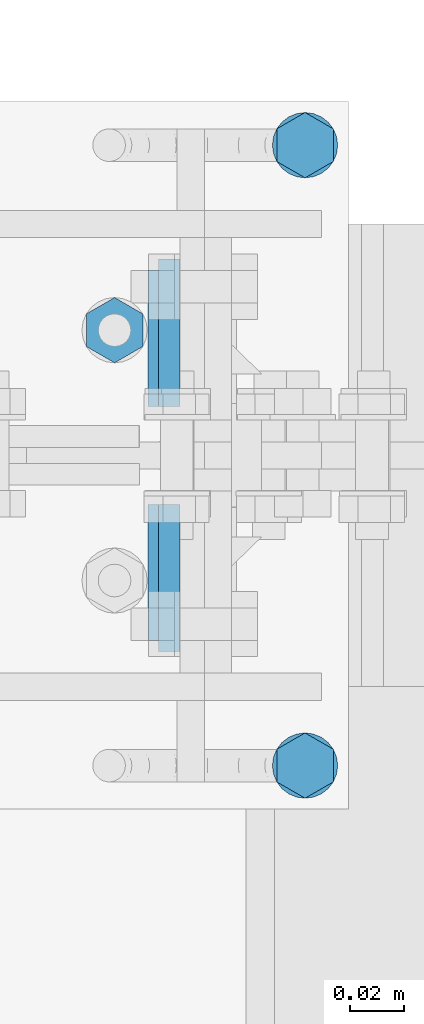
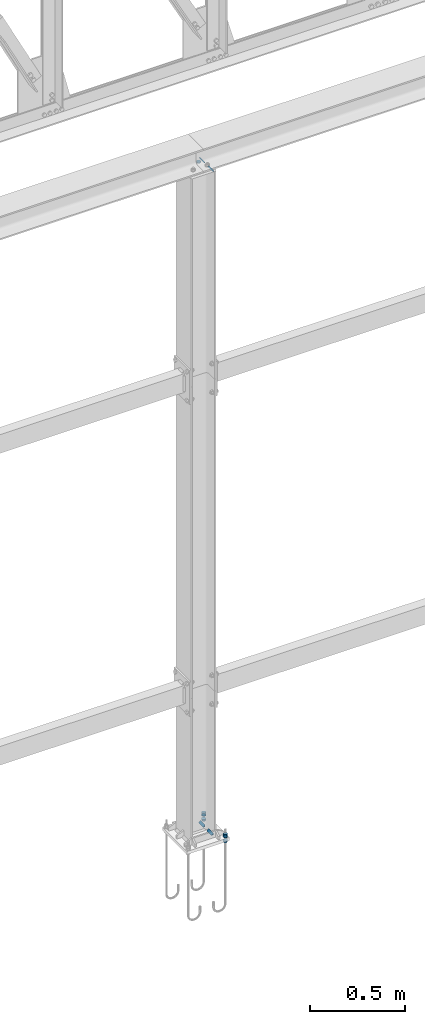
# One storey, part 202 of 251: 11 mechanical fasteners, 8 fasteners.
"""IFC4 building model written with IfcOpenShell, lengths in metres."""

from ifc_helpers import new_model, si_unit, frame, origin_with_axes, place, context, project, spatial, polyline, outline, extrude, type_object, element, save


model = new_model("IFC4")

# Units and contexts
model_context = context("Model", 3, precision=1e-05, world=origin_with_axes())
ifc_project = project(units=[si_unit("LENGTHUNIT", "METRE"), si_unit("AREAUNIT", "SQUARE_METRE"), si_unit("VOLUMEUNIT", "CUBIC_METRE"), si_unit("MASSUNIT", "GRAM", prefix="KILO"), si_unit("TIMEUNIT", "SECOND"), si_unit("PLANEANGLEUNIT", "RADIAN"), si_unit("SOLIDANGLEUNIT", "STERADIAN"), si_unit("THERMODYNAMICTEMPERATUREUNIT", "DEGREE_CELSIUS")], contexts=[model_context])

# Site, building, storey
placement_1 = place(None, origin_with_axes())
site = spatial("IfcSite", under=ifc_project, at=placement_1, Name="Italia", CompositionType="ELEMENT")
building = spatial("IfcBuilding", under=site, at=placement_1, Name="Deposito", CompositionType="ELEMENT")
storey = spatial("IfcBuildingStorey", under=building, at=placement_1, Name="Storey 0", CompositionType="ELEMENT", Elevation=0.0)

# Fasteners
fastener_type_1 = type_object("IfcFastenerType", Name="Collegamenti 0068_-006 0074_-007", PredefinedType="WELD")
placement_2 = place(placement_1, origin_with_axes())
fastener_1_placement = place(placement_2, origin_with_axes())
element("IfcFastener", 1, at=fastener_1_placement, inside=storey, type_object=fastener_type_1, Name="Collegamenti 0068_-006 0074_-007", context=model_context, shape_type="SweptSolid", body=[
    extrude(outline(polyline([(0.0, 0.0), (0.0118074, 0.0121734), (0.0118074, 0.0), (0.0, 0.0)])), frame((10.9702, 20.0681, 0.06995), z_axis=(0.0, -1.0, 0.0), x_axis=(1.0, 0.0, 0.0)), (0.0, 0.0, 1.0), 0.0501003),
])
fastener_type_2 = type_object("IfcFastenerType", Name="Collegamenti 0068_-006 0074_-007", PredefinedType="WELD")
fastener_2_placement = place(placement_2, origin_with_axes())
element("IfcFastener", 2, at=fastener_2_placement, inside=storey, type_object=fastener_type_2, Name="Collegamenti 0068_-006 0074_-007", context=model_context, shape_type="SweptSolid", body=[
    extrude(outline(polyline([(0.0, 0.0), (0.0118074, 0.0121734), (0.0118074, 0.0), (0.0, 0.0)])), frame((10.9702, 19.982, 0.06995), z_axis=(0.0, -1.0, 0.0), x_axis=(1.0, 0.0, 0.0)), (0.0, 0.0, 1.0), 0.0501003),
])
fastener_type_3 = type_object("IfcFastenerType", Name="Collegamenti 0068_-006 0074_-007", PredefinedType="WELD")
fastener_3_placement = place(placement_2, origin_with_axes())
element("IfcFastener", 3, at=fastener_3_placement, inside=storey, type_object=fastener_type_3, Name="Collegamenti 0068_-006 0074_-007", context=model_context, shape_type="SweptSolid", body=[
    extrude(outline(polyline([(0.0, 0.0), (0.0118074, 0.0121734), (0.0118074, 0.0), (0.0, 0.0)])), frame((10.9702, 20.0681, 0.06995), z_axis=(0.0, -1.0, 0.0), x_axis=(1.0, 0.0, 0.0)), (0.0, 0.0, 1.0), 0.0501003),
])
fastener_type_4 = type_object("IfcFastenerType", Name="Collegamenti 0068_-006 0074_-007", PredefinedType="WELD")
fastener_4_placement = place(placement_2, origin_with_axes())
element("IfcFastener", 4, at=fastener_4_placement, inside=storey, type_object=fastener_type_4, Name="Collegamenti 0068_-006 0074_-007", context=model_context, shape_type="SweptSolid", body=[
    extrude(outline(polyline([(0.0, 0.0), (0.0118074, 0.0121734), (0.0118074, 0.0), (0.0, 0.0)])), frame((10.9702, 19.982, 0.06995), z_axis=(0.0, -1.0, 0.0), x_axis=(1.0, 0.0, 0.0)), (0.0, 0.0, 1.0), 0.0501003),
])

# Mechanical fasteners
mechanical_fastener_type_1 = type_object("IfcMechanicalFastenerType", Name="Collegamenti 0068_-006 0074_-007", PredefinedType="BOLT")
mechanical_fastener_1_placement = place(placement_2, origin_with_axes())
element("IfcMechanicalFastener", 5, at=mechanical_fastener_1_placement, inside=storey, type_object=mechanical_fastener_type_1, Name="Collegamenti 0068_-006 0074_-007", NominalDiameter=0.0119992, context=model_context, shape_type="SweptSolid", body=[
    extrude(outline(polyline([(0.0, 0.0), (-0.012001, 0.0), (-0.0179996, 0.0103922), (-0.012001, 0.0207844), (0.0, 0.0207844), (0.00600052, 0.0103922), (0.0, 0.0)])), frame((11.0384, 19.892, 0.072), z_axis=(0.0, 0.0, 1.0), x_axis=(0.0, 1.0, 0.0)), (0.0, 0.0, 1.0), 0.0096),
])
mechanical_fastener_type_2 = type_object("IfcMechanicalFastenerType", Name="Collegamenti 0068_-006 0074_-007", PredefinedType="BOLT")
mechanical_fastener_2_placement = place(placement_2, origin_with_axes())
element("IfcMechanicalFastener", 6, at=mechanical_fastener_2_placement, inside=storey, type_object=mechanical_fastener_type_2, Name="Collegamenti 0068_-006 0074_-007", NominalDiameter=0.0119992, context=model_context, shape_type="SweptSolid", body=[
    extrude(outline(polyline([(0.0, 0.0), (-0.012001, 0.0), (-0.0179996, 0.0103922), (-0.012001, 0.0207844), (0.0, 0.0207844), (0.00600052, 0.0103922), (0.0, 0.0)])), frame((11.0384, 19.892, 0.0816), z_axis=(0.0, 0.0, 1.0), x_axis=(0.0, 1.0, 0.0)), (0.0, 0.0, 1.0), 0.0096),
])
mechanical_fastener_type_3 = type_object("IfcMechanicalFastenerType", Name="Collegamenti 0068_-006 0074_-007", PredefinedType="BOLT")
mechanical_fastener_3_placement = place(placement_2, origin_with_axes())
element("IfcMechanicalFastener", 7, at=mechanical_fastener_3_placement, inside=storey, type_object=mechanical_fastener_type_3, Name="Collegamenti 0068_-006 0074_-007", NominalDiameter=0.0119992, context=model_context, shape_type="SweptSolid", body=[
    extrude(outline(polyline([(0.0, 0.0), (-0.012001, 0.0), (-0.0179996, 0.0103922), (-0.012001, 0.0207844), (0.0, 0.0207844), (0.00600052, 0.0103922), (0.0, 0.0)])), frame((11.0384, 19.892, 0.0384), z_axis=(0.0, 0.0, 1.0), x_axis=(0.0, 1.0, 0.0)), (0.0, 0.0, 1.0), 0.0096),
])
mechanical_fastener_type_4 = type_object("IfcMechanicalFastenerType", Name="Collegamenti 0068_-006 0074_-007", PredefinedType="BOLT")
mechanical_fastener_4_placement = place(placement_2, origin_with_axes())
element("IfcMechanicalFastener", 8, at=mechanical_fastener_4_placement, inside=storey, type_object=mechanical_fastener_type_4, Name="Collegamenti 0068_-006 0074_-007", NominalDiameter=0.024, context=model_context, shape_type="SweptSolid", body=[
    extrude(outline(polyline([(0.0, 0.0), (-0.000408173, -0.00310612), (-0.00160599, -0.00599957), (-0.00351334, -0.00848484), (-0.00599861, -0.0103922), (-0.00889397, -0.011591), (-0.0119991, -0.0120001), (-0.0151043, -0.011591), (-0.0179996, -0.0103922), (-0.0204849, -0.00848484), (-0.0223923, -0.00599957), (-0.0235901, -0.00310612), (-0.0239983, 0.0), (-0.0235901, 0.00310612), (-0.0223923, 0.00599957), (-0.0204849, 0.00848484), (-0.0179996, 0.0103922), (-0.0151043, 0.011591), (-0.0119991, 0.0120001), (-0.00889397, 0.011591), (-0.00599861, 0.0103922), (-0.00351334, 0.00848484), (-0.00160599, 0.00599957), (-0.000408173, 0.00310612), (0.0, 0.0)])), frame((11.028, 19.898, 0.07), z_axis=(0.0, 0.0, 1.0), x_axis=(0.0, 1.0, 0.0)), (0.0, 0.0, 1.0), 0.002),
])
mechanical_fastener_type_5 = type_object("IfcMechanicalFastenerType", Name="Collegamenti 0068_-006 0074_-007", PredefinedType="BOLT")
mechanical_fastener_5_placement = place(placement_2, origin_with_axes())
element("IfcMechanicalFastener", 9, at=mechanical_fastener_5_placement, inside=storey, type_object=mechanical_fastener_type_5, Name="Collegamenti 0068_-006 0074_-007", NominalDiameter=0.024, context=model_context, shape_type="SweptSolid", body=[
    extrude(outline(polyline([(0.0, 0.0), (-0.000408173, -0.00310612), (-0.00160599, -0.00599957), (-0.00351334, -0.00848484), (-0.00599861, -0.0103922), (-0.00889397, -0.011591), (-0.0119991, -0.0120001), (-0.0151043, -0.011591), (-0.0179996, -0.0103922), (-0.0204849, -0.00848484), (-0.0223923, -0.00599957), (-0.0235901, -0.00310612), (-0.0239983, 0.0), (-0.0235901, 0.00310612), (-0.0223923, 0.00599957), (-0.0204849, 0.00848484), (-0.0179996, 0.0103922), (-0.0151043, 0.011591), (-0.0119991, 0.0120001), (-0.00889397, 0.011591), (-0.00599861, 0.0103922), (-0.00351334, 0.00848484), (-0.00160599, 0.00599957), (-0.000408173, 0.00310612), (0.0, 0.0)])), frame((11.028, 19.898, 0.048), z_axis=(0.0, 0.0, 1.0), x_axis=(0.0, 1.0, 0.0)), (0.0, 0.0, 1.0), 0.002),
])
mechanical_fastener_type_6 = type_object("IfcMechanicalFastenerType", Name="Collegamenti 0068_-006 0074_-007", PredefinedType="BOLT")
mechanical_fastener_6_placement = place(placement_2, origin_with_axes())
element("IfcMechanicalFastener", 10, at=mechanical_fastener_6_placement, inside=storey, type_object=mechanical_fastener_type_6, Name="Collegamenti 0068_-006 0074_-007", NominalDiameter=0.0119992, context=model_context, shape_type="SweptSolid", body=[
    extrude(outline(polyline([(0.0, 0.0), (-0.012001, 0.0), (-0.0180016, 0.0103922), (-0.012001, 0.0207844), (0.0, 0.0207844), (0.00599861, 0.0103922), (0.0, 0.0)])), frame((11.0384, 20.12, 0.072), z_axis=(0.0, 0.0, 1.0), x_axis=(0.0, 1.0, 0.0)), (0.0, 0.0, 1.0), 0.0096),
])
mechanical_fastener_type_7 = type_object("IfcMechanicalFastenerType", Name="Collegamenti 0068_-006 0074_-007", PredefinedType="BOLT")
mechanical_fastener_7_placement = place(placement_2, origin_with_axes())
element("IfcMechanicalFastener", 11, at=mechanical_fastener_7_placement, inside=storey, type_object=mechanical_fastener_type_7, Name="Collegamenti 0068_-006 0074_-007", NominalDiameter=0.0119992, context=model_context, shape_type="SweptSolid", body=[
    extrude(outline(polyline([(0.0, 0.0), (-0.012001, 0.0), (-0.0180016, 0.0103922), (-0.012001, 0.0207844), (0.0, 0.0207844), (0.00599861, 0.0103922), (0.0, 0.0)])), frame((11.0384, 20.12, 0.0816), z_axis=(0.0, 0.0, 1.0), x_axis=(0.0, 1.0, 0.0)), (0.0, 0.0, 1.0), 0.0096),
])
mechanical_fastener_type_8 = type_object("IfcMechanicalFastenerType", Name="Collegamenti 0068_-006 0074_-007", PredefinedType="BOLT")
mechanical_fastener_8_placement = place(placement_2, origin_with_axes())
element("IfcMechanicalFastener", 12, at=mechanical_fastener_8_placement, inside=storey, type_object=mechanical_fastener_type_8, Name="Collegamenti 0068_-006 0074_-007", NominalDiameter=0.0119992, context=model_context, shape_type="SweptSolid", body=[
    extrude(outline(polyline([(0.0, 0.0), (-0.012001, 0.0), (-0.0180016, 0.0103922), (-0.012001, 0.0207844), (0.0, 0.0207844), (0.00599861, 0.0103922), (0.0, 0.0)])), frame((11.0384, 20.12, 0.0384), z_axis=(0.0, 0.0, 1.0), x_axis=(0.0, 1.0, 0.0)), (0.0, 0.0, 1.0), 0.0096),
])
mechanical_fastener_type_9 = type_object("IfcMechanicalFastenerType", Name="Collegamenti 0068_-006 0074_-007", PredefinedType="BOLT")
mechanical_fastener_9_placement = place(placement_2, origin_with_axes())
element("IfcMechanicalFastener", 13, at=mechanical_fastener_9_placement, inside=storey, type_object=mechanical_fastener_type_9, Name="Collegamenti 0068_-006 0074_-007", NominalDiameter=0.024, context=model_context, shape_type="SweptSolid", body=[
    extrude(outline(polyline([(0.0, 0.0), (-0.000408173, -0.00310612), (-0.00160599, -0.00599957), (-0.00351334, -0.00848484), (-0.00599861, -0.0103922), (-0.00889397, -0.011591), (-0.0119991, -0.0120001), (-0.0151043, -0.011591), (-0.0179996, -0.0103922), (-0.0204849, -0.00848484), (-0.0223923, -0.00599957), (-0.0235901, -0.00310612), (-0.0239983, 0.0), (-0.0235901, 0.00310612), (-0.0223923, 0.00599957), (-0.0204849, 0.00848484), (-0.0179996, 0.0103922), (-0.0151043, 0.011591), (-0.0119991, 0.0120001), (-0.00889397, 0.011591), (-0.00599861, 0.0103922), (-0.00351334, 0.00848484), (-0.00160599, 0.00599957), (-0.000408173, 0.00310612), (0.0, 0.0)])), frame((11.028, 20.126, 0.07), z_axis=(0.0, 0.0, 1.0), x_axis=(0.0, 1.0, 0.0)), (0.0, 0.0, 1.0), 0.002),
])
mechanical_fastener_type_10 = type_object("IfcMechanicalFastenerType", Name="Collegamenti 0068_-006 0074_-007", PredefinedType="BOLT")
mechanical_fastener_10_placement = place(placement_2, origin_with_axes())
element("IfcMechanicalFastener", 14, at=mechanical_fastener_10_placement, inside=storey, type_object=mechanical_fastener_type_10, Name="Collegamenti 0068_-006 0074_-007", NominalDiameter=0.024, context=model_context, shape_type="SweptSolid", body=[
    extrude(outline(polyline([(0.0, 0.0), (-0.000408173, -0.00310612), (-0.00160599, -0.00599957), (-0.00351334, -0.00848484), (-0.00599861, -0.0103922), (-0.00889397, -0.011591), (-0.0119991, -0.0120001), (-0.0151043, -0.011591), (-0.0179996, -0.0103922), (-0.0204849, -0.00848484), (-0.0223923, -0.00599957), (-0.0235901, -0.00310612), (-0.0239983, 0.0), (-0.0235901, 0.00310612), (-0.0223923, 0.00599957), (-0.0204849, 0.00848484), (-0.0179996, 0.0103922), (-0.0151043, 0.011591), (-0.0119991, 0.0120001), (-0.00889397, 0.011591), (-0.00599861, 0.0103922), (-0.00351334, 0.00848484), (-0.00160599, 0.00599957), (-0.000408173, 0.00310612), (0.0, 0.0)])), frame((11.028, 20.126, 0.048), z_axis=(0.0, 0.0, 1.0), x_axis=(0.0, 1.0, 0.0)), (0.0, 0.0, 1.0), 0.002),
])

# Fasteners
fastener_type_5 = type_object("IfcFastenerType", Name="Collegamenti 7068_-014 7074_-015", PredefinedType="WELD")
fastener_5_placement = place(placement_2, origin_with_axes())
element("IfcFastener", 15, at=fastener_5_placement, inside=storey, type_object=fastener_type_5, Name="Collegamenti 7068_-014 7074_-015", context=model_context, shape_type="SweptSolid", body=[
    extrude(outline(polyline([(0.0, 0.0), (-0.00792789, -0.00817347), (-0.00792789, 0.0), (0.0, 0.0)])), frame((10.9741, 20.018, 4.33305), z_axis=(0.0, 1.0, 0.0), x_axis=(-1.0, 0.0, 0.0)), (0.0, 0.0, 1.0), 0.0541),
])
fastener_type_6 = type_object("IfcFastenerType", Name="Collegamenti 7068_-014 7074_-015", PredefinedType="WELD")
fastener_6_placement = place(placement_2, origin_with_axes())
element("IfcFastener", 16, at=fastener_6_placement, inside=storey, type_object=fastener_type_6, Name="Collegamenti 7068_-014 7074_-015", context=model_context, shape_type="SweptSolid", body=[
    extrude(outline(polyline([(0.0, 0.0), (-0.00792789, -0.00817347), (-0.00792789, 0.0), (0.0, 0.0)])), frame((10.9741, 19.9279, 4.33305), z_axis=(0.0, 1.0, 0.0), x_axis=(-1.0, 0.0, 0.0)), (0.0, 0.0, 1.0), 0.0541),
])
fastener_type_7 = type_object("IfcFastenerType", Name="Collegamenti 7068_-014 7074_-015", PredefinedType="WELD")
fastener_7_placement = place(placement_2, origin_with_axes())
element("IfcFastener", 17, at=fastener_7_placement, inside=storey, type_object=fastener_type_7, Name="Collegamenti 7068_-014 7074_-015", context=model_context, shape_type="SweptSolid", body=[
    extrude(outline(polyline([(0.0, 0.0), (-0.00792789, -0.00817347), (-0.00792789, 0.0), (0.0, 0.0)])), frame((10.9741, 20.018, 4.33305), z_axis=(0.0, 1.0, 0.0), x_axis=(-1.0, 0.0, 0.0)), (0.0, 0.0, 1.0), 0.0541),
])
fastener_type_8 = type_object("IfcFastenerType", Name="Collegamenti 7068_-014 7074_-015", PredefinedType="WELD")
fastener_8_placement = place(placement_2, origin_with_axes())
element("IfcFastener", 18, at=fastener_8_placement, inside=storey, type_object=fastener_type_8, Name="Collegamenti 7068_-014 7074_-015", context=model_context, shape_type="SweptSolid", body=[
    extrude(outline(polyline([(0.0, 0.0), (-0.00792789, -0.00817347), (-0.00792789, 0.0), (0.0, 0.0)])), frame((10.9741, 19.9279, 4.33305), z_axis=(0.0, 1.0, 0.0), x_axis=(-1.0, 0.0, 0.0)), (0.0, 0.0, 1.0), 0.0541),
])

# Mechanical fastener
mechanical_fastener_type_11 = type_object("IfcMechanicalFastenerType", Name="Collegamenti 7068_-014 7074_-015", PredefinedType="BOLT")
mechanical_fastener_11_placement = place(placement_2, origin_with_axes())
element("IfcMechanicalFastener", 19, at=mechanical_fastener_11_placement, inside=storey, type_object=mechanical_fastener_type_11, Name="Collegamenti 7068_-014 7074_-015", NominalDiameter=0.0119991, context=model_context, shape_type="SweptSolid", body=[
    extrude(outline(polyline([(0.0, 0.0), (0.0119991, 0.0), (0.0179996, -0.0103922), (0.0119991, -0.0207844), (0.0, -0.0207844), (-0.00600052, -0.0103922), (0.0, 0.0)])), frame((10.9684, 20.04, 4.333), z_axis=(0.0, 0.0, -1.0), x_axis=(0.0, 1.0, 0.0)), (0.0, 0.0, 1.0), 0.00960016),
])

save(model, "model.ifc")
